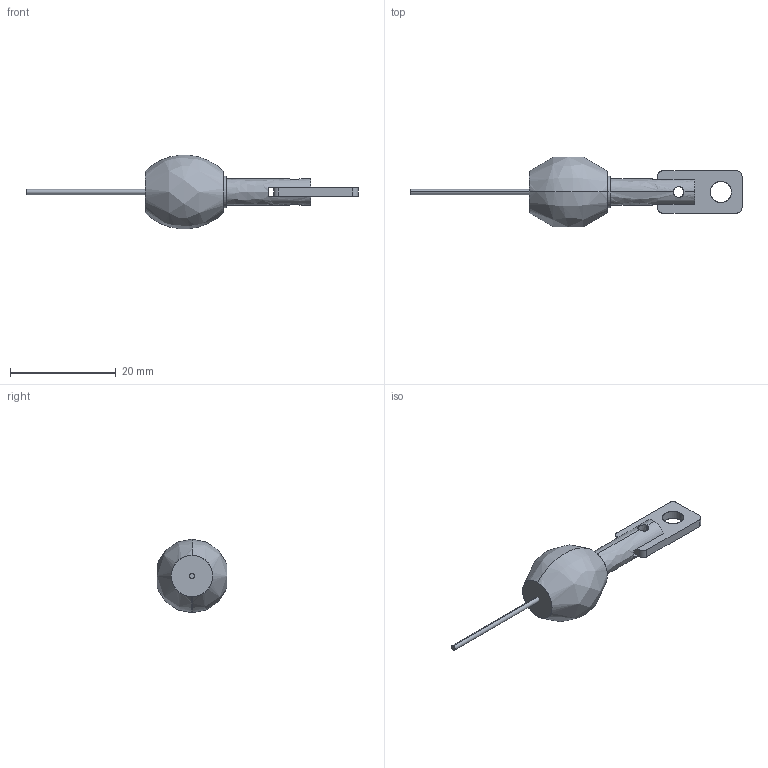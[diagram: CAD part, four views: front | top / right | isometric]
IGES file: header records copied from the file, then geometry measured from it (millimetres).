
Start section: SolidWorks IGES file using analytic representation for surfaces
Bounding box: 62.93 x 13.24 x 13.92 mm (x, y, z)
Surface area: 1391.3 mm2 (no closed solid volume)
Topology: 0 solids, 0 shells, 33 faces, 604 edges, 604 vertices
Faces by surface type: bspline 19, revolution 14
